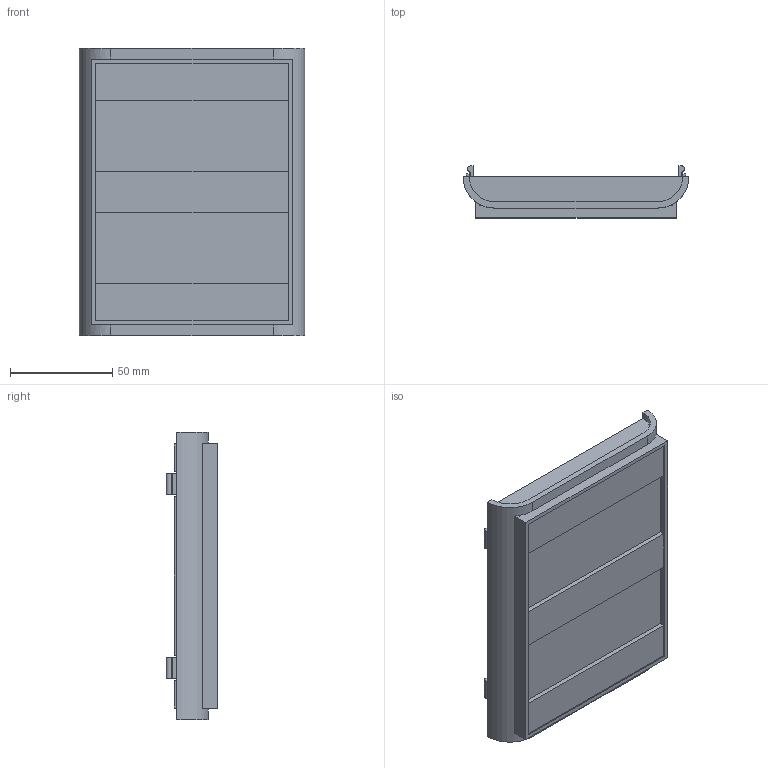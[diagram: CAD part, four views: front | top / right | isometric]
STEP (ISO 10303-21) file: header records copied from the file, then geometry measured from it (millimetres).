
FILE_DESCRIPTION (( 'STEP AP214' ), '1' );
FILE_NAME ('Cos PP62.STEP', '2016-09-13T00:09:08', ( 'aaa' ), ( '' ), 'SwSTEP 2.0', 'SolidWorks 2013', '' );
FILE_SCHEMA (( 'AUTOMOTIVE_DESIGN' ));
Length unit declared in the file: millimetre
Products named in the file (1): Cos PP62
Bounding box: 110.5 x 25.4 x 140.5 mm (x, y, z)
Volume: 49881.6 mm3; surface area: 51365 mm2
Topology: 1 solids, 1 shells, 184 faces, 468 edges, 304 vertices
Faces by surface type: plane 138, cylinder 34, cone 12
Entity records: 5546 total; most frequent: CARTESIAN_POINT 957, DIRECTION 950, ORIENTED_EDGE 936, EDGE_CURVE 468, VECTOR 356, LINE 356, VERTEX_POINT 304, AXIS2_PLACEMENT_3D 297
